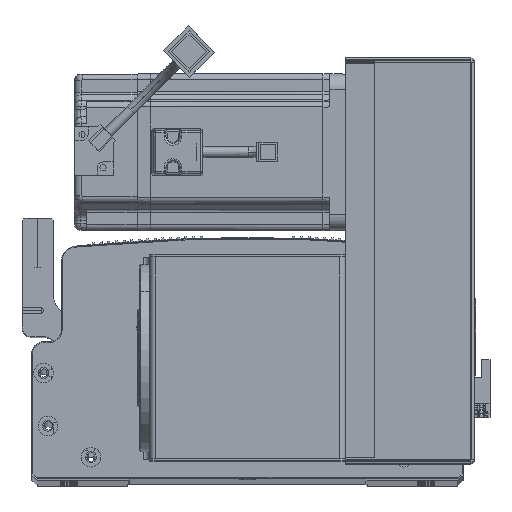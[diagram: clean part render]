
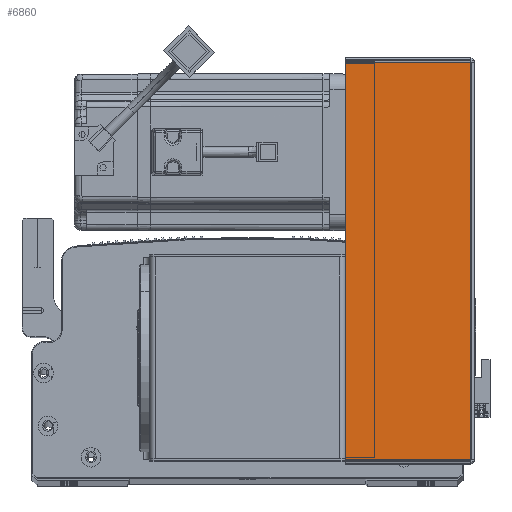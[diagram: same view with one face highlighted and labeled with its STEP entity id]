
A CAD part, top view. The second image highlights one B-rep face of the part: STEP entity #6860.
In plain terms, the highlighted planar face has unit normal (0, 0, 1) as drawn and (0, -1, 0) by its records, which use the part's own axes.
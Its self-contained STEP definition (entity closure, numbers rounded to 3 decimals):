
#3377 = CARTESIAN_POINT ( 'NONE',  ( 64.5, -1.5, 0. ) ) ;
#5717 = DIRECTION ( 'NONE',  ( 1., 0., 0. ) ) ;
#6860 = ADVANCED_FACE ( 'NONE', ( #34057 ), #88552, .F. ) ;
#10633 = DIRECTION ( 'NONE',  ( 0., 0., 1. ) ) ;
#11085 = LINE ( 'NONE', #53179, #47439 ) ;
#12956 = DIRECTION ( 'NONE',  ( -1., 0., 0. ) ) ;
#14090 = LINE ( 'NONE', #3377, #19411 ) ;
#15064 = EDGE_CURVE ( 'NONE', #27662, #45071, #57699, .T. ) ;
#15777 = ORIENTED_EDGE ( 'NONE', *, *, #15064, .T. ) ;
#18480 = EDGE_CURVE ( 'NONE', #27662, #60725, #44390, .T. ) ;
#19411 = VECTOR ( 'NONE', #51154, 1000. ) ;
#21466 = EDGE_CURVE ( 'NONE', #45071, #27488, #14090, .T. ) ;
#27304 = VECTOR ( 'NONE', #10633, 1000. ) ;
#27488 = VERTEX_POINT ( 'NONE', #30595 ) ;
#27598 = CARTESIAN_POINT ( 'NONE',  ( 0., -1.5, 0. ) ) ;
#27662 = VERTEX_POINT ( 'NONE', #61915 ) ;
#30595 = CARTESIAN_POINT ( 'NONE',  ( 64.5, -1.5, -0.707 ) ) ;
#34057 = FACE_OUTER_BOUND ( 'NONE', #53309, .T. ) ;
#34462 = DIRECTION ( 'NONE',  ( 1., 0., 0. ) ) ;
#44390 = LINE ( 'NONE', #85637, #27304 ) ;
#45071 = VERTEX_POINT ( 'NONE', #52449 ) ;
#47439 = VECTOR ( 'NONE', #5717, 1000. ) ;
#48808 = CARTESIAN_POINT ( 'NONE',  ( 0., -1.5, -203.293 ) ) ;
#49176 = VECTOR ( 'NONE', #34462, 1000. ) ;
#49848 = ORIENTED_EDGE ( 'NONE', *, *, #21466, .T. ) ;
#50987 = ORIENTED_EDGE ( 'NONE', *, *, #18480, .F. ) ;
#51154 = DIRECTION ( 'NONE',  ( 0., 0., 1. ) ) ;
#52449 = CARTESIAN_POINT ( 'NONE',  ( 64.5, -1.5, -203.293 ) ) ;
#53179 = CARTESIAN_POINT ( 'NONE',  ( 0., -1.5, -0.707 ) ) ;
#53309 = EDGE_LOOP ( 'NONE', ( #50987, #15777, #49848, #54855 ) ) ;
#53865 = DIRECTION ( 'NONE',  ( 0., 1., 0. ) ) ;
#54855 = ORIENTED_EDGE ( 'NONE', *, *, #75373, .F. ) ;
#57699 = LINE ( 'NONE', #48808, #49176 ) ;
#57710 = CARTESIAN_POINT ( 'NONE',  ( 0.737, -1.5, -0.707 ) ) ;
#60725 = VERTEX_POINT ( 'NONE', #57710 ) ;
#61489 = AXIS2_PLACEMENT_3D ( 'NONE', #27598, #53865, #12956 ) ;
#61915 = CARTESIAN_POINT ( 'NONE',  ( 0.737, -1.5, -203.293 ) ) ;
#75373 = EDGE_CURVE ( 'NONE', #60725, #27488, #11085, .T. ) ;
#85637 = CARTESIAN_POINT ( 'NONE',  ( 0.737, -1.5, 0. ) ) ;
#88552 = PLANE ( 'NONE',  #61489 ) ;
